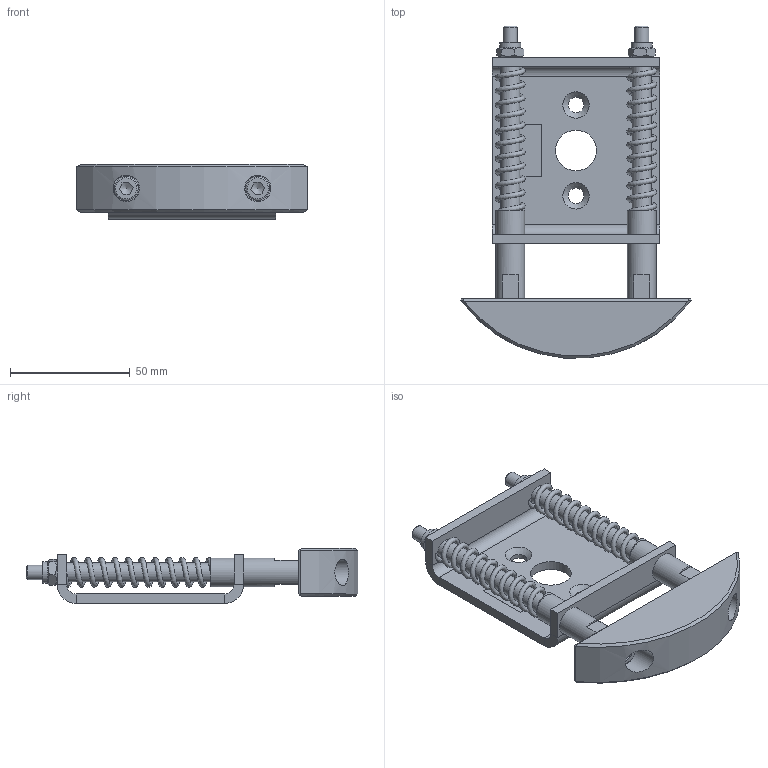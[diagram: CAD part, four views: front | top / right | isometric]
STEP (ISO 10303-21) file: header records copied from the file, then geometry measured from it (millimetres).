
FILE_DESCRIPTION(/* description */ ('Führungsplatte'),/* implementation_level */ '2;1');
FILE_NAME(/* name */ 'Q:\sge-ma\Produktmanagement-STB\STB\Workspace\stp\010336105.stp',/* time_stamp */ '2016-07-13T14:34:45+02:00',/* author */ ('avschreier'),/* organization */ (''),/* preprocessor_version */ 'ST-DEVELOPER v16.1',/* originating_system */ 'Autodesk Inventor 2016',/* authorisation */ '');
FILE_SCHEMA (('AUTOMOTIVE_DESIGN { 1 0 10303 214 3 1 1 }'));
Length unit declared in the file: millimetre
Products named in the file (7): 337000329; 337000328; 337000327; Druckfeder_1; DIN_EN_ISO_4762-M6x16_en; DIN_985-M6_en; 010336105
Assembly tree (10 placements, depth 2):
  010336105
    337000329
    337000328
    337000327  x2
    Druckfeder_1  x2
    DIN_EN_ISO_4762-M6x16_en  x2
    DIN_985-M6_en  x2
Bounding box: 96.29 x 138.79 x 23 mm (x, y, z)
Volume: 77545.2 mm3; surface area: 38289 mm2
Topology: 10 solids, 10 shells, 152 faces, 332 edges, 205 vertices
Faces by surface type: plane 90, cylinder 32, cone 22, torus 6, bspline 2
Full cylindrical faces by diameter (mm): 4.917 x4, 6 x4, 6.5 x2, 6.6 x2, 8 x2, 8.5 x2, 8.9 x2, 10 x2, 11 x2, 12 x2, 12.5 x2, 17 x1
Entity records: 4614 total; most frequent: CARTESIAN_POINT 2280, DIRECTION 470, ORIENTED_EDGE 380, EDGE_CURVE 190, AXIS2_PLACEMENT_3D 188, EDGE_LOOP 159, VERTEX_POINT 131, FACE_OUTER_BOUND 105
